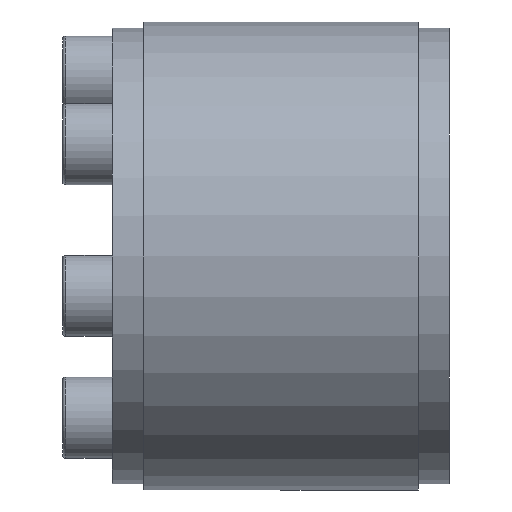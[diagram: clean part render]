
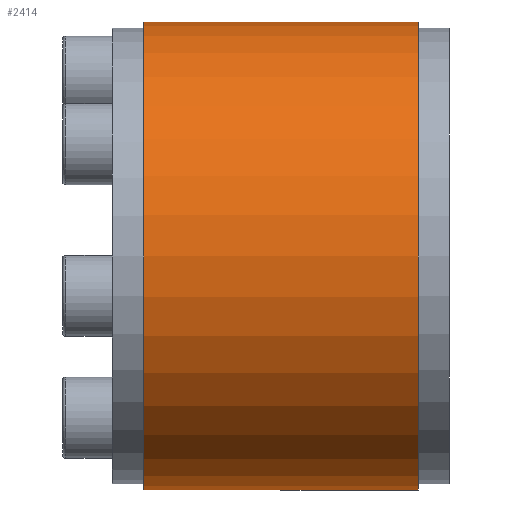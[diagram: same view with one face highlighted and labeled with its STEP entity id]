
A CAD part, left-side view. The second image highlights one B-rep face of the part: STEP entity #2414.
In plain terms, the highlighted cylindrical face has radius 37.5 mm (diameter 75 mm), a partial arc.
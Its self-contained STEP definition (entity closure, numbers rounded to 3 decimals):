
#7 = CIRCLE ( 'NONE', #675, 37.5 ) ;
#24 = EDGE_CURVE ( 'NONE', #2132, #1793, #7, .T. ) ;
#120 = VERTEX_POINT ( 'NONE', #2487 ) ;
#190 = CARTESIAN_POINT ( 'NONE',  ( 0., -22., -37.5 ) ) ;
#226 = DIRECTION ( 'NONE',  ( 0., -1., 0. ) ) ;
#286 = ORIENTED_EDGE ( 'NONE', *, *, #1551, .T. ) ;
#299 = DIRECTION ( 'NONE',  ( 0., -1., 0. ) ) ;
#323 = EDGE_LOOP ( 'NONE', ( #2509, #286, #1223, #1027 ) ) ;
#379 = FACE_OUTER_BOUND ( 'NONE', #323, .T. ) ;
#419 = CARTESIAN_POINT ( 'NONE',  ( 0., 22., 37.5 ) ) ;
#491 = VERTEX_POINT ( 'NONE', #419 ) ;
#541 = DIRECTION ( 'NONE',  ( 0., 0., -1. ) ) ;
#648 = AXIS2_PLACEMENT_3D ( 'NONE', #1949, #226, #1501 ) ;
#675 = AXIS2_PLACEMENT_3D ( 'NONE', #1814, #2181, #541 ) ;
#775 = CIRCLE ( 'NONE', #1256, 37.5 ) ;
#777 = LINE ( 'NONE', #1845, #1276 ) ;
#902 = LINE ( 'NONE', #2607, #2291 ) ;
#1027 = ORIENTED_EDGE ( 'NONE', *, *, #24, .F. ) ;
#1063 = EDGE_CURVE ( 'NONE', #120, #1793, #777, .T. ) ;
#1128 = CARTESIAN_POINT ( 'NONE',  ( 0., -22., 37.5 ) ) ;
#1223 = ORIENTED_EDGE ( 'NONE', *, *, #1063, .T. ) ;
#1256 = AXIS2_PLACEMENT_3D ( 'NONE', #1575, #299, #2028 ) ;
#1276 = VECTOR ( 'NONE', #2045, 1000. ) ;
#1431 = EDGE_CURVE ( 'NONE', #491, #2132, #902, .T. ) ;
#1501 = DIRECTION ( 'NONE',  ( 0., 0., -1. ) ) ;
#1551 = EDGE_CURVE ( 'NONE', #491, #120, #775, .T. ) ;
#1575 = CARTESIAN_POINT ( 'NONE',  ( 0., 22., 0. ) ) ;
#1652 = CYLINDRICAL_SURFACE ( 'NONE', #648, 37.5 ) ;
#1793 = VERTEX_POINT ( 'NONE', #190 ) ;
#1814 = CARTESIAN_POINT ( 'NONE',  ( 0., -22., 0. ) ) ;
#1845 = CARTESIAN_POINT ( 'NONE',  ( 0., 0., -37.5 ) ) ;
#1949 = CARTESIAN_POINT ( 'NONE',  ( 0., 0., 0. ) ) ;
#1955 = DIRECTION ( 'NONE',  ( 0., -1., 0. ) ) ;
#2028 = DIRECTION ( 'NONE',  ( 0., 0., -1. ) ) ;
#2045 = DIRECTION ( 'NONE',  ( 0., -1., 0. ) ) ;
#2132 = VERTEX_POINT ( 'NONE', #1128 ) ;
#2181 = DIRECTION ( 'NONE',  ( 0., -1., 0. ) ) ;
#2291 = VECTOR ( 'NONE', #1955, 1000. ) ;
#2414 = ADVANCED_FACE ( 'NONE', ( #379 ), #1652, .T. ) ;
#2487 = CARTESIAN_POINT ( 'NONE',  ( 0., 22., -37.5 ) ) ;
#2509 = ORIENTED_EDGE ( 'NONE', *, *, #1431, .F. ) ;
#2607 = CARTESIAN_POINT ( 'NONE',  ( 0., 0., 37.5 ) ) ;
